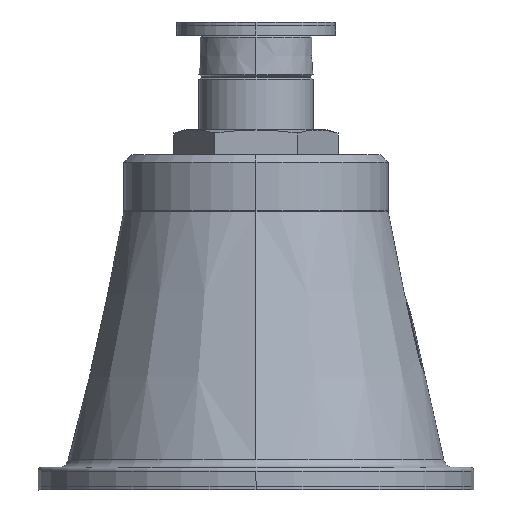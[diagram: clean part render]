
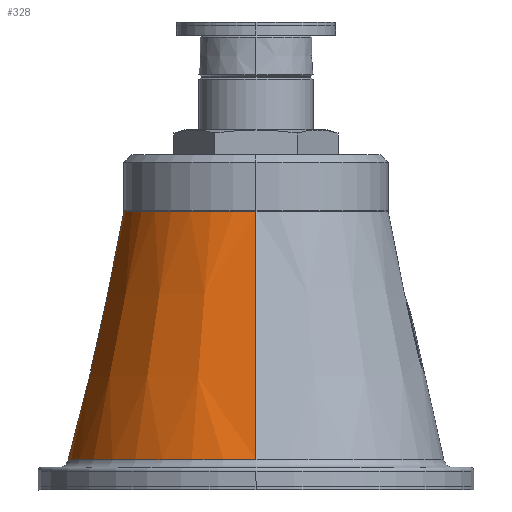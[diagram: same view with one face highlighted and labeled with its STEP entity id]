
A CAD part, left-side view. The second image highlights one B-rep face of the part: STEP entity #328.
In plain terms, the highlighted conical face has half-angle 12.633 degrees and reference radius 84.432 mm.
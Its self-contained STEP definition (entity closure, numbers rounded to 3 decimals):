
#328=ADVANCED_FACE('',(#665),#666,.T.);
#665=FACE_OUTER_BOUND('',#1043,.T.);
#666=CONICAL_SURFACE('',#1044,84.432,0.22);
#1043=EDGE_LOOP('',(#1775,#1776,#1777,#1778,#1779));
#1044=AXIS2_PLACEMENT_3D('',#1780,#1781,#1782);
#1775=ORIENTED_EDGE('',*,*,#2412,.T.);
#1776=ORIENTED_EDGE('',*,*,#2437,.F.);
#1777=ORIENTED_EDGE('',*,*,#2414,.T.);
#1778=ORIENTED_EDGE('',*,*,#2438,.T.);
#1779=ORIENTED_EDGE('',*,*,#2338,.T.);
#1780=CARTESIAN_POINT('',(382.605,498.119,79.457));
#1781=DIRECTION('',(0.,0.,-1.0));
#1782=DIRECTION('',(-1.0,0.,0.));
#2338=EDGE_CURVE('',#2786,#2794,#2796,.T.);
#2412=EDGE_CURVE('',#2794,#2927,#2928,.T.);
#2414=EDGE_CURVE('',#2931,#2929,#2932,.T.);
#2437=EDGE_CURVE('',#2931,#2927,#2970,.T.);
#2438=EDGE_CURVE('',#2929,#2786,#2971,.T.);
#2786=VERTEX_POINT('',#3485);
#2794=VERTEX_POINT('',#3493);
#2796=CIRCLE('',#3495,99.123);
#2927=VERTEX_POINT('',#4086);
#2928=LINE('',#4087,#4088);
#2929=VERTEX_POINT('',#4089);
#2931=VERTEX_POINT('',#4091);
#2932=LINE('',#4092,#4093);
#2970=CIRCLE('',#4140,69.742);
#2971=CIRCLE('',#4141,99.123);
#3485=CARTESIAN_POINT('',(382.605,597.242,13.915));
#3493=CARTESIAN_POINT('',(283.482,498.119,13.915));
#3495=AXIS2_PLACEMENT_3D('',#4577,#4578,#4579);
#4086=CARTESIAN_POINT('',(312.863,498.119,145.));
#4087=CARTESIAN_POINT('',(298.173,498.119,79.457));
#4088=VECTOR('',#4648,1.0);
#4089=CARTESIAN_POINT('',(481.727,498.119,13.915));
#4091=CARTESIAN_POINT('',(452.347,498.119,145.));
#4092=CARTESIAN_POINT('',(467.037,498.119,79.457));
#4093=VECTOR('',#4652,1.0);
#4140=AXIS2_PLACEMENT_3D('',#4695,#4696,#4697);
#4141=AXIS2_PLACEMENT_3D('',#4698,#4699,#4700);
#4577=CARTESIAN_POINT('',(382.605,498.119,13.915));
#4578=DIRECTION('',(0.,0.,1.0));
#4579=DIRECTION('',(-1.0,0.,0.));
#4648=DIRECTION('',(0.219,0.,0.976));
#4652=DIRECTION('',(0.219,0.,-0.976));
#4695=CARTESIAN_POINT('',(382.605,498.119,145.));
#4696=DIRECTION('',(0.,0.,1.0));
#4697=DIRECTION('',(-1.0,0.,0.));
#4698=CARTESIAN_POINT('',(382.605,498.119,13.915));
#4699=DIRECTION('',(0.,0.,1.0));
#4700=DIRECTION('',(-1.0,0.,0.));
